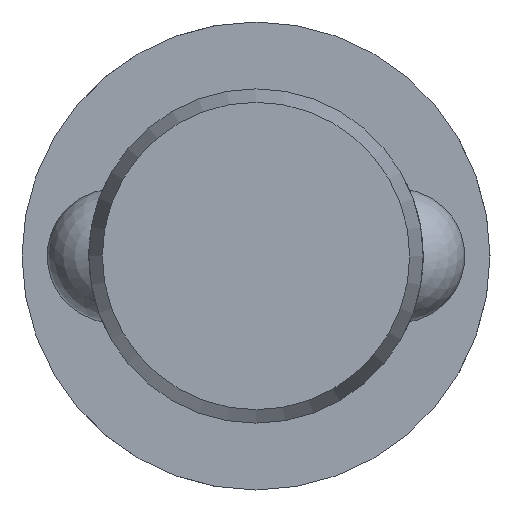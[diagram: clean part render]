
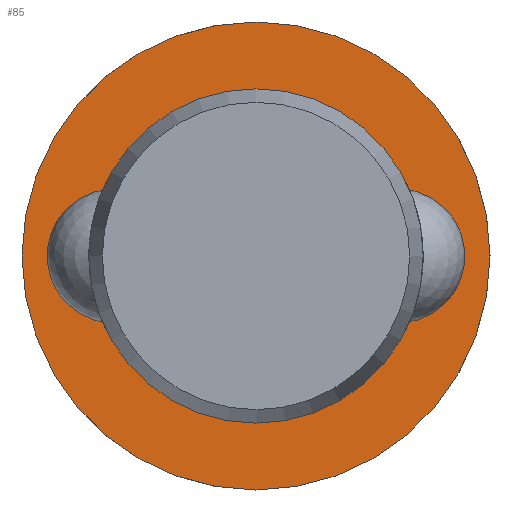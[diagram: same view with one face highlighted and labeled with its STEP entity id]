
A CAD part, left-side view. The second image highlights one B-rep face of the part: STEP entity #85.
In plain terms, the highlighted planar face has unit normal (-1, 0, 0).
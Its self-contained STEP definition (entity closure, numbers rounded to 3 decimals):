
#85 = ADVANCED_FACE( '', ( #131, #132 ), #133, .F. );
#131 = FACE_OUTER_BOUND( '', #204, .T. );
#132 = FACE_BOUND( '', #205, .T. );
#133 = PLANE( '', #206 );
#204 = EDGE_LOOP( '', ( #322 ) );
#205 = EDGE_LOOP( '', ( #323 ) );
#206 = AXIS2_PLACEMENT_3D( '', #324, #325, #326 );
#322 = ORIENTED_EDGE( '', *, *, #470, .F. );
#323 = ORIENTED_EDGE( '', *, *, #467, .T. );
#324 = CARTESIAN_POINT( '', ( 70.5, 10., 0. ) );
#325 = DIRECTION( '', ( 1., 0., 0. ) );
#326 = DIRECTION( '', ( 0., 0., -1. ) );
#467 = EDGE_CURVE( '', #541, #541, #542, .T. );
#470 = EDGE_CURVE( '', #547, #547, #548, .T. );
#541 = VERTEX_POINT( '', #777 );
#542 = CIRCLE( '', #778, 10. );
#547 = VERTEX_POINT( '', #909 );
#548 = CIRCLE( '', #910, 14. );
#777 = CARTESIAN_POINT( '', ( 70.5, 0., -10. ) );
#778 = AXIS2_PLACEMENT_3D( '', #989, #990, #991 );
#909 = CARTESIAN_POINT( '', ( 70.5, 0., -14. ) );
#910 = AXIS2_PLACEMENT_3D( '', #992, #993, #994 );
#989 = CARTESIAN_POINT( '', ( 70.5, 0., 0. ) );
#990 = DIRECTION( '', ( 1., 0., 0. ) );
#991 = DIRECTION( '', ( 0., 0., -1. ) );
#992 = CARTESIAN_POINT( '', ( 70.5, 0., 0. ) );
#993 = DIRECTION( '', ( 1., 0., 0. ) );
#994 = DIRECTION( '', ( 0., 0., -1. ) );
